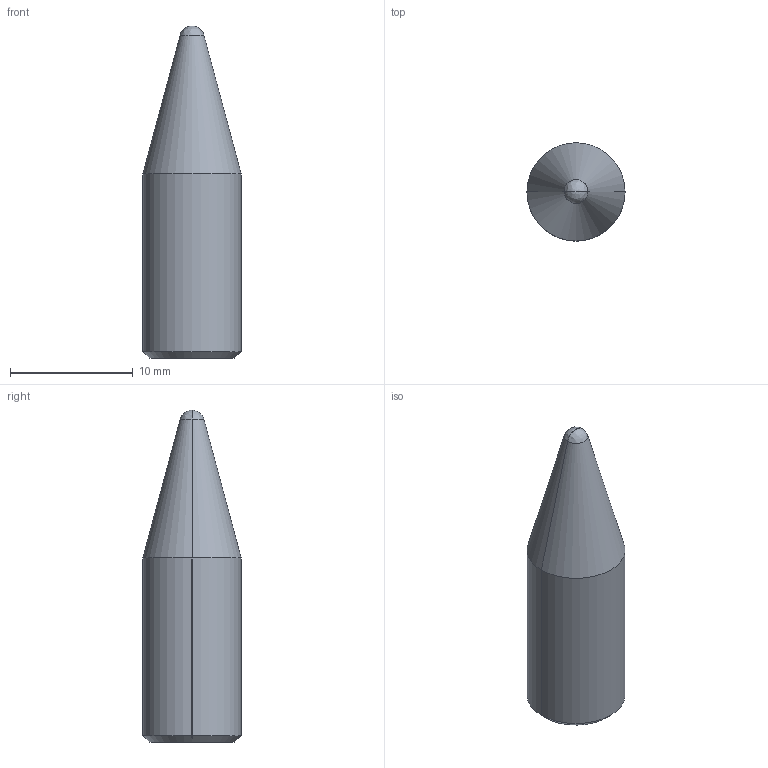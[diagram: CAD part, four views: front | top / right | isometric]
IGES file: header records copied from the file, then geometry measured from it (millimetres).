
Global section: file name: E:\UnigraphicsGraphicData\MISUMI_PRESS-PARTS\IGES\3d_snst8-b15_03104_r00.igs; native system: NX V5.0; preprocessor: UGS NX IGES V5.0; author: MISUMI; date: 20110105.162853; units: millimetre
Bounding box: 8 x 8 x 27.06 mm (x, y, z)
Surface area: 764.3 mm2 (no closed solid volume)
Topology: 0 solids, 0 shells, 12 faces, 64 edges, 62 vertices
Faces by surface type: bspline 12
